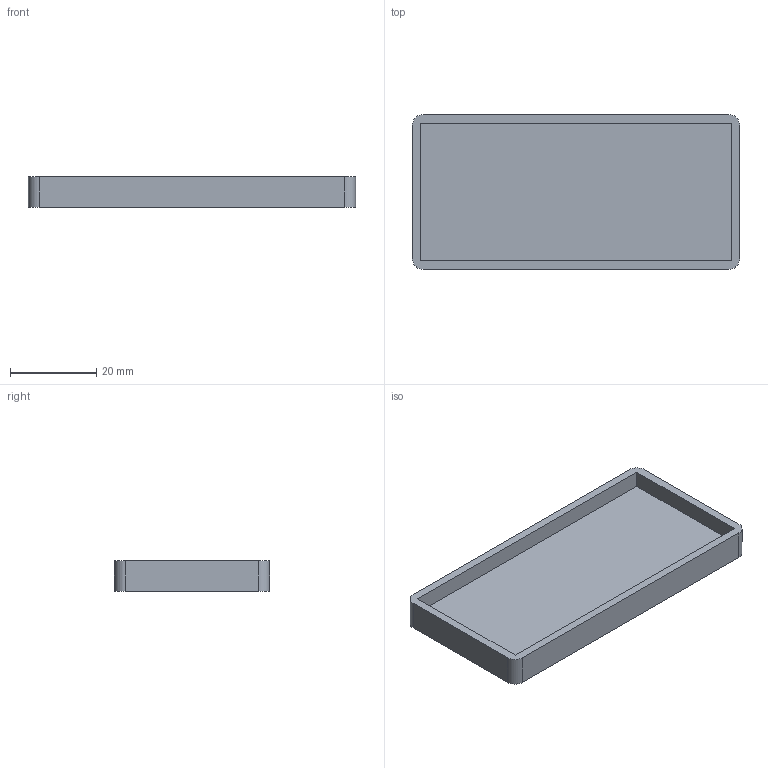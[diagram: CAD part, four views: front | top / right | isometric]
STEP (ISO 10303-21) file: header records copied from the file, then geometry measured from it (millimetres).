
FILE_DESCRIPTION(/* description */ (''),/* implementation_level */ '2;1');
FILE_NAME(/* name */ 'BM6C v1.step',/* time_stamp */ '2024-07-04T14:25:04+05:30',/* author */ (''),/* organization */ (''),/* preprocessor_version */ 'ST-DEVELOPER v20',/* originating_system */ 'Autodesk Translation Framework v13.14.0.145',/* authorisation */ '');
FILE_SCHEMA (('AUTOMOTIVE_DESIGN { 1 0 10303 214 3 1 1 }'));
Length unit declared in the file: millimetre
Products named in the file (1): BM6C
Bounding box: 76 x 36 x 7 mm (x, y, z)
Volume: 9898.4 mm3; surface area: 7831.2 mm2
Topology: 1 solids, 1 shells, 15 faces, 36 edges, 24 vertices
Faces by surface type: plane 11, cylinder 4
Entity records: 471 total; most frequent: DIRECTION 76, CARTESIAN_POINT 76, ORIENTED_EDGE 72, EDGE_CURVE 36, LINE 28, VECTOR 28, VERTEX_POINT 24, AXIS2_PLACEMENT_3D 24
